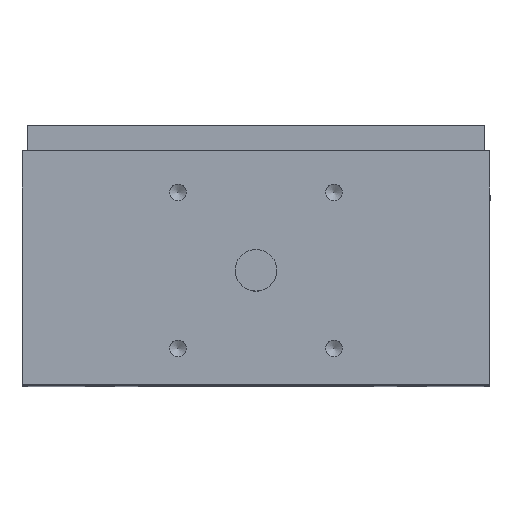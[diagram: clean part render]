
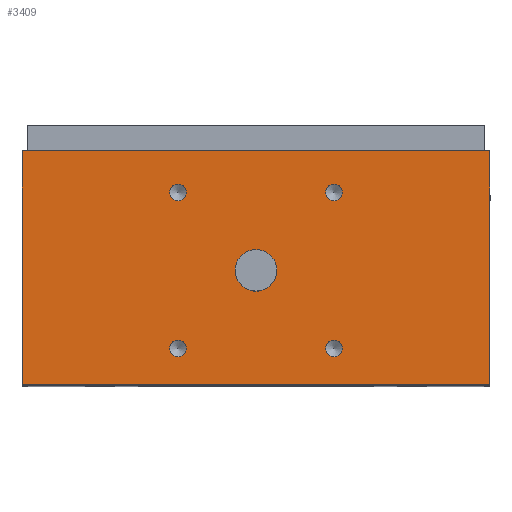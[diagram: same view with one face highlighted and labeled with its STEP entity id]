
A CAD part, top view. The second image highlights one B-rep face of the part: STEP entity #3409.
In plain terms, the highlighted planar face has unit normal (0, 0, 1) as drawn and (0, 0, -1) by its records, which use the part's own axes.
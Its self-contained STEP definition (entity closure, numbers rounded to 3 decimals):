
#3096=CARTESIAN_POINT('',(28.379,8.,0.0));
#3097=VERTEX_POINT('',#3096);
#3098=CARTESIAN_POINT('',(30.0,8.,0.0));
#3099=DIRECTION('',(0.0,0.0,1.0));
#3100=DIRECTION('',(-1.0,0.0,0.0));
#3101=AXIS2_PLACEMENT_3D('',#3098,#3099,#3100);
#3102=CIRCLE('',#3101,1.621);
#3103=EDGE_CURVE('',#3097,#3097,#3102,.T.);
#3133=CARTESIAN_POINT('',(58.379,8.,0.0));
#3134=VERTEX_POINT('',#3133);
#3135=CARTESIAN_POINT('',(60.0,8.,0.0));
#3136=DIRECTION('',(0.0,0.0,1.0));
#3137=DIRECTION('',(-1.0,0.0,0.0));
#3138=AXIS2_PLACEMENT_3D('',#3135,#3136,#3137);
#3139=CIRCLE('',#3138,1.621);
#3140=EDGE_CURVE('',#3134,#3134,#3139,.T.);
#3170=CARTESIAN_POINT('',(28.379,38.0,0.0));
#3171=VERTEX_POINT('',#3170);
#3172=CARTESIAN_POINT('',(30.0,38.0,0.0));
#3173=DIRECTION('',(0.0,0.0,1.0));
#3174=DIRECTION('',(-1.0,0.0,0.0));
#3175=AXIS2_PLACEMENT_3D('',#3172,#3173,#3174);
#3176=CIRCLE('',#3175,1.621);
#3177=EDGE_CURVE('',#3171,#3171,#3176,.T.);
#3207=CARTESIAN_POINT('',(58.379,38.0,0.0));
#3208=VERTEX_POINT('',#3207);
#3209=CARTESIAN_POINT('',(60.,38.0,0.0));
#3210=DIRECTION('',(0.0,0.0,1.0));
#3211=DIRECTION('',(-1.0,0.0,0.0));
#3212=AXIS2_PLACEMENT_3D('',#3209,#3210,#3211);
#3213=CIRCLE('',#3212,1.621);
#3214=EDGE_CURVE('',#3208,#3208,#3213,.T.);
#3238=CARTESIAN_POINT('',(41.,23.,0.0));
#3239=VERTEX_POINT('',#3238);
#3240=CARTESIAN_POINT('',(45.,23.,0.0));
#3241=DIRECTION('',(0.0,0.0,1.0));
#3242=DIRECTION('',(1.0,0.0,0.0));
#3243=AXIS2_PLACEMENT_3D('',#3240,#3241,#3242);
#3244=CIRCLE('',#3243,4.0);
#3245=EDGE_CURVE('',#3239,#3239,#3244,.T.);
#3274=CARTESIAN_POINT('',(0.,45.0,0.0));
#3275=VERTEX_POINT('',#3274);
#3282=CARTESIAN_POINT('',(0.0,0.0,0.0));
#3283=VERTEX_POINT('',#3282);
#3284=CARTESIAN_POINT('',(0.,45.0,0.0));
#3285=DIRECTION('',(0.0,-1.0,0.0));
#3286=VECTOR('',#3285,45.0);
#3287=LINE('',#3284,#3286);
#3288=EDGE_CURVE('',#3275,#3283,#3287,.T.);
#3312=CARTESIAN_POINT('',(90.,45.,0.0));
#3313=VERTEX_POINT('',#3312);
#3320=CARTESIAN_POINT('',(90.,45.,0.0));
#3321=DIRECTION('',(-1.0,0.0,0.0));
#3322=VECTOR('',#3321,90.0);
#3323=LINE('',#3320,#3322);
#3324=EDGE_CURVE('',#3313,#3275,#3323,.T.);
#3343=CARTESIAN_POINT('',(90.,0.,0.0));
#3344=VERTEX_POINT('',#3343);
#3351=CARTESIAN_POINT('',(90.,0.,0.0));
#3352=DIRECTION('',(0.0,1.0,0.0));
#3353=VECTOR('',#3352,45.);
#3354=LINE('',#3351,#3353);
#3355=EDGE_CURVE('',#3344,#3313,#3354,.T.);
#3373=CARTESIAN_POINT('',(0.0,0.0,0.0));
#3374=DIRECTION('',(1.0,0.0,0.0));
#3375=VECTOR('',#3374,90.);
#3376=LINE('',#3373,#3375);
#3377=EDGE_CURVE('',#3283,#3344,#3376,.T.);
#3383=CARTESIAN_POINT('',(45.,22.5,0.0));
#3384=DIRECTION('',(0.0,0.0,1.0));
#3385=DIRECTION('',(1.0,0.0,0.0));
#3386=AXIS2_PLACEMENT_3D('',#3383,#3384,#3385);
#3387=PLANE('',#3386);
#3388=ORIENTED_EDGE('',*,*,#3377,.F.);
#3389=ORIENTED_EDGE('',*,*,#3288,.F.);
#3390=ORIENTED_EDGE('',*,*,#3324,.F.);
#3391=ORIENTED_EDGE('',*,*,#3355,.F.);
#3392=EDGE_LOOP('',(#3388,#3389,#3390,#3391));
#3393=FACE_OUTER_BOUND('',#3392,.T.);
#3394=ORIENTED_EDGE('',*,*,#3103,.T.);
#3395=EDGE_LOOP('',(#3394));
#3396=FACE_BOUND('',#3395,.T.);
#3397=ORIENTED_EDGE('',*,*,#3140,.T.);
#3398=EDGE_LOOP('',(#3397));
#3399=FACE_BOUND('',#3398,.T.);
#3400=ORIENTED_EDGE('',*,*,#3177,.T.);
#3401=EDGE_LOOP('',(#3400));
#3402=FACE_BOUND('',#3401,.T.);
#3403=ORIENTED_EDGE('',*,*,#3214,.T.);
#3404=EDGE_LOOP('',(#3403));
#3405=FACE_BOUND('',#3404,.T.);
#3406=ORIENTED_EDGE('',*,*,#3245,.T.);
#3407=EDGE_LOOP('',(#3406));
#3408=FACE_BOUND('',#3407,.T.);
#3409=ADVANCED_FACE('',(#3393,#3396,#3399,#3402,#3405,#3408),#3387,.F.);
